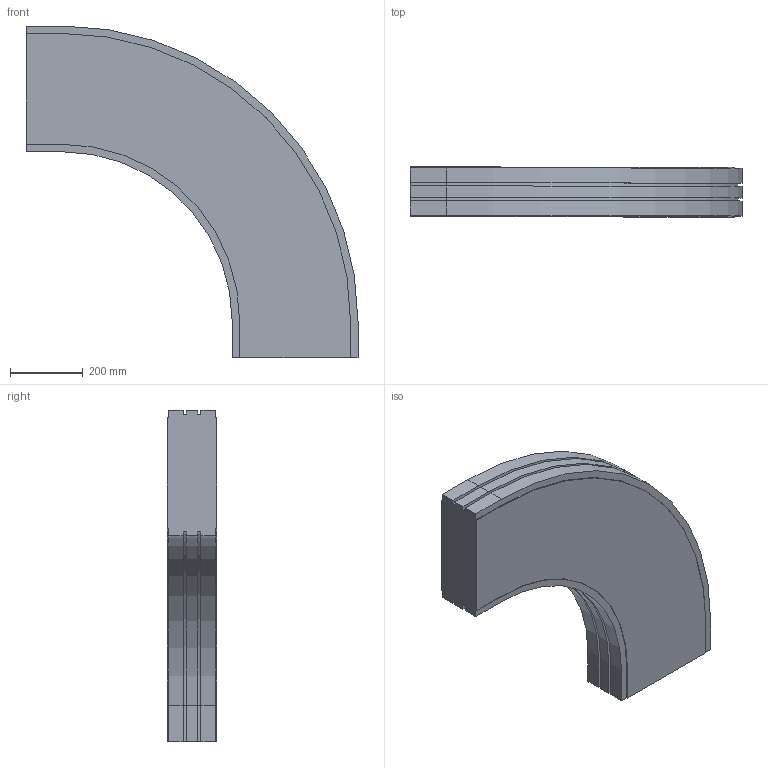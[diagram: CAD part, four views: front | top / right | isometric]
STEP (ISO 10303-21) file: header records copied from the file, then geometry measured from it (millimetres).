
FILE_DESCRIPTION (( 'STEP AP214' ), '1' );
FILE_NAME ('02.150H90.350.N FS-MTC-150 Bocht horizontaal 90°.STEP', '2013-03-21T10:45:29', ( 'Gebruiker' ), ( '' ), 'SwSTEP 2.0', 'SolidWorks 2012', '' );
FILE_SCHEMA (( 'AUTOMOTIVE_DESIGN' ));
Length unit declared in the file: millimetre
Products named in the file (1): 02.150H90.350.N FS-MTC-150 Bocht horizontaal 90°
Bounding box: 913 x 136 x 913 mm (x, y, z)
Volume: 56017971.3 mm3; surface area: 1360937.8 mm2
Topology: 1 solids, 1 shells, 58 faces, 168 edges, 112 vertices
Faces by surface type: plane 44, cylinder 14
Entity records: 1934 total; most frequent: CARTESIAN_POINT 339, ORIENTED_EDGE 336, DIRECTION 314, EDGE_CURVE 168, VECTOR 140, LINE 140, VERTEX_POINT 112, AXIS2_PLACEMENT_3D 87
